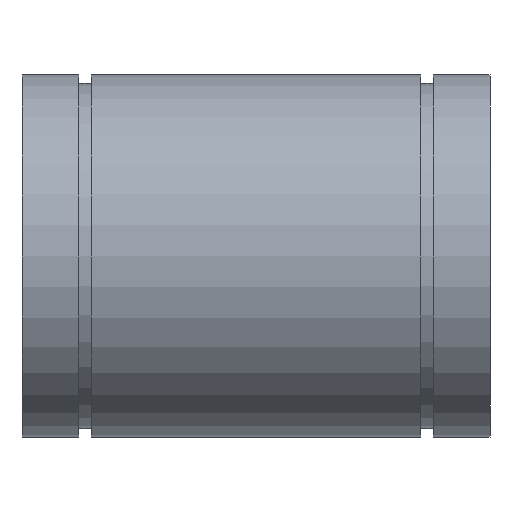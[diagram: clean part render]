
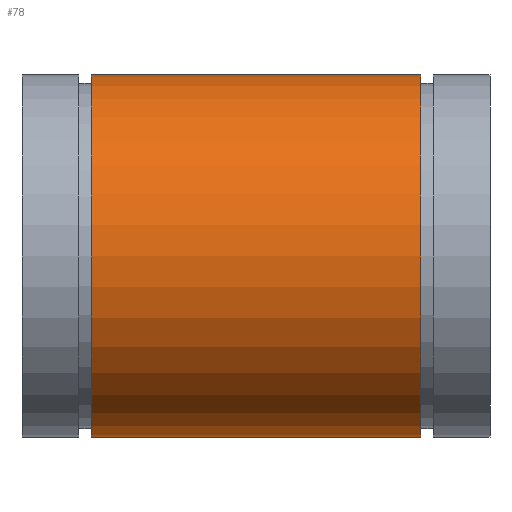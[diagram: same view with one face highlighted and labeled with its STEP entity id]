
A CAD part, front view. The second image highlights one B-rep face of the part: STEP entity #78.
In plain terms, the highlighted cylindrical face has radius 31 mm (diameter 62 mm), a full revolution.
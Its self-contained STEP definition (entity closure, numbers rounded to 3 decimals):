
#78 = ADVANCED_FACE( '', ( #97, #98 ), #99, .T. );
#97 = FACE_OUTER_BOUND( '', #133, .T. );
#98 = FACE_OUTER_BOUND( '', #134, .T. );
#99 = CYLINDRICAL_SURFACE( '', #135, 31. );
#133 = EDGE_LOOP( '', ( #175 ) );
#134 = EDGE_LOOP( '', ( #176 ) );
#135 = AXIS2_PLACEMENT_3D( '', #177, #178, #179 );
#175 = ORIENTED_EDGE( '', *, *, #224, .T. );
#176 = ORIENTED_EDGE( '', *, *, #223, .F. );
#177 = CARTESIAN_POINT( '', ( 80., 0., 0. ) );
#178 = DIRECTION( '', ( -1., 0., 0. ) );
#179 = DIRECTION( '', ( 0., 0., -1. ) );
#223 = EDGE_CURVE( '', #238, #238, #239, .T. );
#224 = EDGE_CURVE( '', #240, #240, #241, .T. );
#238 = VERTEX_POINT( '', #262 );
#239 = CIRCLE( '', #263, 31. );
#240 = VERTEX_POINT( '', #264 );
#241 = CIRCLE( '', #265, 31. );
#262 = CARTESIAN_POINT( '', ( 68.15, 0., -31. ) );
#263 = AXIS2_PLACEMENT_3D( '', #289, #290, #291 );
#264 = CARTESIAN_POINT( '', ( 11.85, 0., -31. ) );
#265 = AXIS2_PLACEMENT_3D( '', #292, #293, #294 );
#289 = CARTESIAN_POINT( '', ( 68.15, 0., 0. ) );
#290 = DIRECTION( '', ( 1., 0., 0. ) );
#291 = DIRECTION( '', ( 0., 0., -1. ) );
#292 = CARTESIAN_POINT( '', ( 11.85, 0., 0. ) );
#293 = DIRECTION( '', ( 1., 0., 0. ) );
#294 = DIRECTION( '', ( 0., 0., -1. ) );
